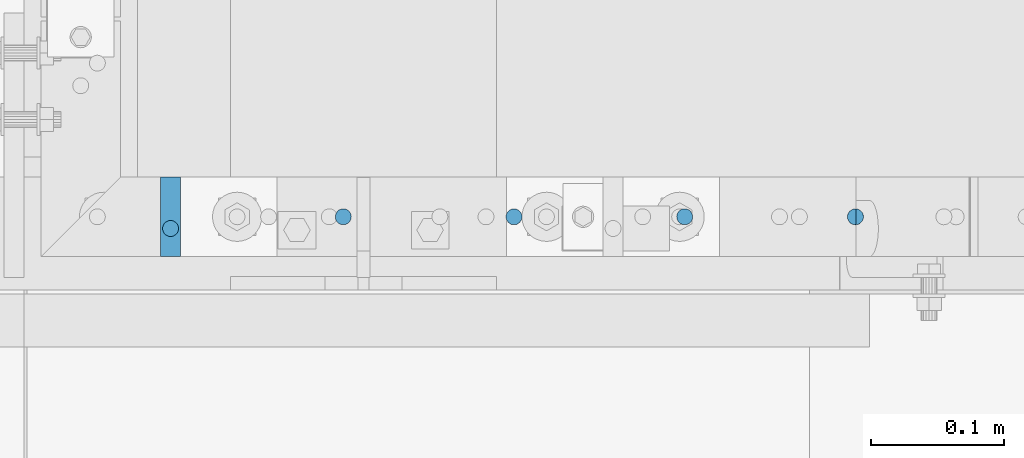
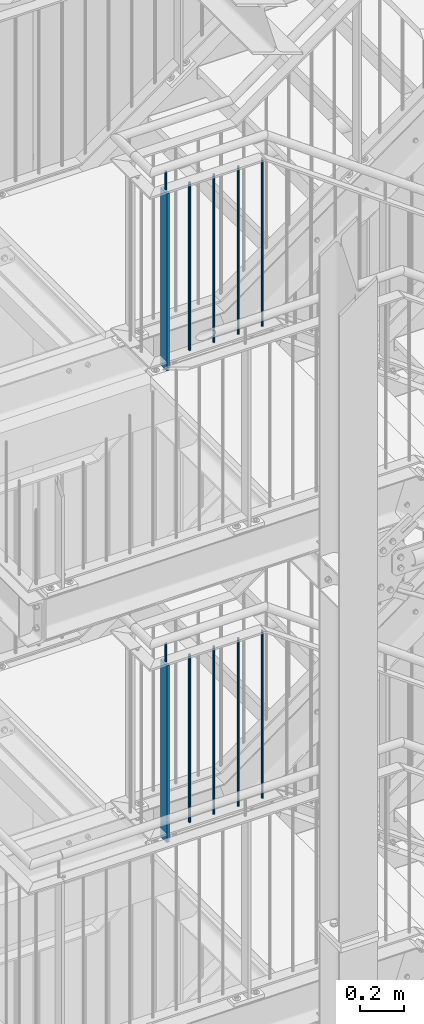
# One storey, part 30 of 825: 12 columns, 2 openings.
"""IFC2X3 building model written with IfcOpenShell, lengths in millimetres."""

from ifc_helpers import new_model, entity, si_unit, converted_unit, frame, origin, origin_with_axes, origin_2d, place, context, project, spatial, polyline, rectangle, circle, outline, extrude, clip, halfspace, material, element, save


model = new_model("IFC2X3")

# Units and contexts
model_context = context("Model", 3, precision=1e-09, world=origin_with_axes())
ifc_project = project(units=[si_unit("LENGTHUNIT", "METRE", prefix="MILLI"), si_unit("AREAUNIT", "SQUARE_METRE"), si_unit("VOLUMEUNIT", "CUBIC_METRE"), converted_unit("PLANEANGLEUNIT", "DEGREE", entity("IfcPlaneAngleMeasure", 0.01745329), si_unit("PLANEANGLEUNIT", "RADIAN"), dimensions=[0, 0, 0, 0, 0, 0, 0])], contexts=[model_context])

# Site, building, storey
site_placement = place(None, origin_with_axes())
site = spatial("IfcSite", under=ifc_project, at=site_placement, Name="Cnopf'sche Kinderklinik", CompositionType="ELEMENT")
building_placement = place(site_placement, origin_with_axes())
building = spatial("IfcBuilding", under=site, at=building_placement, Name="Struktur 1", CompositionType="ELEMENT")
storey_placement = place(building_placement, origin_with_axes())
storey = spatial("IfcBuildingStorey", under=building, at=storey_placement, Name="Default Storey", CompositionType="ELEMENT", Elevation=0.0)

# Column
ifc_material = material(Name="S235JR")
column_1_placement = place(None, frame((4711.713402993, 5791.736971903, 13618.723292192), z_axis=(0.0, 0.0, 1.0), x_axis=(-1.0, 0.0, 0.0)))
element("IfcColumn", 1, at=column_1_placement, inside=storey, material=ifc_material, Name="Railing_Post_Landing#2", ObjectType="Railing_Post_Landing#2", context=model_context, shape_type="Clipping", body=[
    clip(clip(extrude(rectangle(XDim=15.0, YDim=60.0, at=origin_2d()), origin(), (0.0, 0.0, -1.0), 1070.646584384), halfspace(frame((4711.713402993, 5791.736971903, -1019.722292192), z_axis=(0.0, 0.0, 1.0), x_axis=(-1.0, 0.0, 0.0)), True)), halfspace(frame((4711.713402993, 5791.736971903, -30.924292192), z_axis=(0.0, 0.0, -1.0), x_axis=(1.0, 0.0, 0.0)), True)),
])

# Column, opening
column_2_placement = place(None, frame((5226.32504585, 5791.736971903, 13587.8), z_axis=(0.0, 0.0, 1.0), x_axis=(-1.0, 0.0, 0.0)))
column_2 = element("IfcColumn", 2, at=column_2_placement, inside=storey, material=ifc_material, Name="Railing_Picket_Landing#12", ObjectType="Railing_Picket_Landing#12", context=model_context, shape_type="SweptSolid", body=[
    extrude(circle(Radius=6.0, at=origin_2d()), origin(), (0.0, 0.0, -1.0), 938.8),
])
opening_1_placement = place(column_2_placement, frame((0.0, -106.1, 0.0), z_axis=(0.0, 1.0, 0.0), x_axis=(-1.0, 0.0, 0.0)))
element("IfcOpeningElement", 3, at=opening_1_placement, cuts=column_2, ObjectType="Opening", context=model_context, shape_type="SweptSolid", body=[
    extrude(outline(polyline([(31.901552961, 44.694350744), (0.304586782, 44.694350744), (0.304586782, -0.000511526), (18.301228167, -12.98874694), (31.901552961, 44.694350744)])), origin(), (0.0, 0.0, 1.0), 212.2),
])

# Columns
column_3_placement = place(None, frame((5098.047831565, 5791.736971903, 13601.285281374), z_axis=(0.0, 0.0, 1.0), x_axis=(-1.0, 0.0, 0.0)))
element("IfcColumn", 4, at=column_3_placement, inside=storey, material=ifc_material, Name="Railing_Picket_Landing#13", ObjectType="Railing_Picket_Landing#13", context=model_context, shape_type="Clipping", body=[
    clip(clip(extrude(circle(Radius=6.0, at=origin_2d()), origin(), (0.0, 0.0, -1.0), 965.770562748), halfspace(frame((5098.047831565, 5791.736971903, -13.486281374), z_axis=(0.0, 0.0, -1.0), x_axis=(1.0, 0.0, 0.0)), True)), halfspace(frame((5098.047831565, 5791.736971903, -952.284281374), z_axis=(0.0, 0.0, 1.0), x_axis=(-1.0, 0.0, 0.0)), True)),
])
column_4_placement = place(None, frame((4969.770617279, 5791.736971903, 13601.285281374), z_axis=(0.0, 0.0, 1.0), x_axis=(-1.0, 0.0, 0.0)))
element("IfcColumn", 5, at=column_4_placement, inside=storey, material=ifc_material, Name="Railing_Picket_Landing#14", ObjectType="Railing_Picket_Landing#14", context=model_context, shape_type="Clipping", body=[
    clip(clip(extrude(circle(Radius=6.0, at=origin_2d()), origin(), (0.0, 0.0, -1.0), 965.770562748), halfspace(frame((4969.770617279, 5791.736971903, -13.486281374), z_axis=(0.0, 0.0, -1.0), x_axis=(1.0, 0.0, 0.0)), True)), halfspace(frame((4969.770617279, 5791.736971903, -952.284281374), z_axis=(0.0, 0.0, 1.0), x_axis=(-1.0, 0.0, 0.0)), True)),
])
column_5_placement = place(None, frame((4841.493402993, 5791.736971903, 13601.285281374), z_axis=(0.0, 0.0, 1.0), x_axis=(-1.0, 0.0, 0.0)))
element("IfcColumn", 6, at=column_5_placement, inside=storey, material=ifc_material, Name="Railing_Picket_Landing#15", ObjectType="Railing_Picket_Landing#15", context=model_context, shape_type="Clipping", body=[
    clip(clip(extrude(circle(Radius=6.0, at=origin_2d()), origin(), (0.0, 0.0, -1.0), 965.770562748), halfspace(frame((4841.493402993, 5791.736971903, -13.486281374), z_axis=(0.0, 0.0, -1.0), x_axis=(1.0, 0.0, 0.0)), True)), halfspace(frame((4841.493402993, 5791.736971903, -952.284281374), z_axis=(0.0, 0.0, 1.0), x_axis=(-1.0, 0.0, 0.0)), True)),
])
column_6_placement = place(None, frame((4711.713402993, 5782.936971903, 13706.285281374), z_axis=(0.0, 0.0, 1.0), x_axis=(0.0, 1.0, 0.0)))
element("IfcColumn", 7, at=column_6_placement, inside=storey, material=ifc_material, Name="Bar#2", ObjectType="Bar#2", context=model_context, shape_type="Clipping", body=[
    clip(clip(extrude(circle(Radius=6.0, at=origin_2d()), origin(), (0.0, 0.0, -1.0), 116.970562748), halfspace(frame((-5782.936971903, 4711.713402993, -8.486281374), z_axis=(0.0, 0.0, -1.0), x_axis=(0.0, 1.0, 0.0)), True)), halfspace(frame((-5782.936971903, 4711.713402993, -108.484281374), z_axis=(0.0, 0.0, 1.0), x_axis=(0.0, -1.0, 0.0)), True)),
])
column_7_placement = place(None, frame((4711.713402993, 5791.736971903, 16253.723292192), z_axis=(0.0, 0.0, 1.0), x_axis=(-1.0, 0.0, 0.0)))
element("IfcColumn", 8, at=column_7_placement, inside=storey, material=ifc_material, Name="Railing_Post_Landing#2", ObjectType="Railing_Post_Landing#2", context=model_context, shape_type="Clipping", body=[
    clip(clip(extrude(rectangle(XDim=15.0, YDim=60.0, at=origin_2d()), origin(), (0.0, 0.0, -1.0), 1070.646584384), halfspace(frame((4711.713402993, 5791.736971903, -1019.722292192), z_axis=(0.0, 0.0, 1.0), x_axis=(-1.0, 0.0, 0.0)), True)), halfspace(frame((4711.713402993, 5791.736971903, -30.924292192), z_axis=(0.0, 0.0, -1.0), x_axis=(1.0, 0.0, 0.0)), True)),
])

# Column, opening
column_8_placement = place(None, frame((5226.32504585, 5791.736971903, 16222.8), z_axis=(0.0, 0.0, 1.0), x_axis=(-1.0, 0.0, 0.0)))
column_8 = element("IfcColumn", 9, at=column_8_placement, inside=storey, material=ifc_material, Name="Railing_Picket_Landing#12", ObjectType="Railing_Picket_Landing#12", context=model_context, shape_type="SweptSolid", body=[
    extrude(circle(Radius=6.0, at=origin_2d()), origin(), (0.0, 0.0, -1.0), 938.8),
])
opening_2_placement = place(column_8_placement, frame((0.0, -106.1, 0.0), z_axis=(0.0, 1.0, 0.0), x_axis=(-1.0, 0.0, 0.0)))
element("IfcOpeningElement", 10, at=opening_2_placement, cuts=column_8, ObjectType="Opening", context=model_context, shape_type="SweptSolid", body=[
    extrude(outline(polyline([(33.590442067, 31.144766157), (0.279708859, 31.144766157), (0.279708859, -0.000510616), (17.54522259, -12.499034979), (33.590442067, 31.144766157)])), origin(), (0.0, 0.0, 1.0), 212.2),
])

# Columns
column_9_placement = place(None, frame((5098.047831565, 5791.736971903, 16236.285281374), z_axis=(0.0, 0.0, 1.0), x_axis=(-1.0, 0.0, 0.0)))
element("IfcColumn", 11, at=column_9_placement, inside=storey, material=ifc_material, Name="Railing_Picket_Landing#13", ObjectType="Railing_Picket_Landing#13", context=model_context, shape_type="Clipping", body=[
    clip(clip(extrude(circle(Radius=6.0, at=origin_2d()), origin(), (0.0, 0.0, -1.0), 965.770562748), halfspace(frame((5098.047831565, 5791.736971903, -13.486281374), z_axis=(0.0, 0.0, -1.0), x_axis=(1.0, 0.0, 0.0)), True)), halfspace(frame((5098.047831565, 5791.736971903, -952.284281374), z_axis=(0.0, 0.0, 1.0), x_axis=(-1.0, 0.0, 0.0)), True)),
])
column_10_placement = place(None, frame((4969.770617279, 5791.736971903, 16236.285281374), z_axis=(0.0, 0.0, 1.0), x_axis=(-1.0, 0.0, 0.0)))
element("IfcColumn", 12, at=column_10_placement, inside=storey, material=ifc_material, Name="Railing_Picket_Landing#14", ObjectType="Railing_Picket_Landing#14", context=model_context, shape_type="Clipping", body=[
    clip(clip(extrude(circle(Radius=6.0, at=origin_2d()), origin(), (0.0, 0.0, -1.0), 965.770562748), halfspace(frame((4969.770617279, 5791.736971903, -13.486281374), z_axis=(0.0, 0.0, -1.0), x_axis=(1.0, 0.0, 0.0)), True)), halfspace(frame((4969.770617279, 5791.736971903, -952.284281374), z_axis=(0.0, 0.0, 1.0), x_axis=(-1.0, 0.0, 0.0)), True)),
])
column_11_placement = place(None, frame((4841.493402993, 5791.736971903, 16236.285281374), z_axis=(0.0, 0.0, 1.0), x_axis=(-1.0, 0.0, 0.0)))
element("IfcColumn", 13, at=column_11_placement, inside=storey, material=ifc_material, Name="Railing_Picket_Landing#15", ObjectType="Railing_Picket_Landing#15", context=model_context, shape_type="Clipping", body=[
    clip(clip(extrude(circle(Radius=6.0, at=origin_2d()), origin(), (0.0, 0.0, -1.0), 965.770562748), halfspace(frame((4841.493402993, 5791.736971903, -13.486281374), z_axis=(0.0, 0.0, -1.0), x_axis=(1.0, 0.0, 0.0)), True)), halfspace(frame((4841.493402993, 5791.736971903, -952.284281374), z_axis=(0.0, 0.0, 1.0), x_axis=(-1.0, 0.0, 0.0)), True)),
])
column_12_placement = place(None, frame((4711.713402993, 5782.936971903, 16341.285281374), z_axis=(0.0, 0.0, 1.0), x_axis=(0.0, 1.0, 0.0)))
element("IfcColumn", 14, at=column_12_placement, inside=storey, material=ifc_material, Name="Bar#2", ObjectType="Bar#2", context=model_context, shape_type="Clipping", body=[
    clip(clip(extrude(circle(Radius=6.0, at=origin_2d()), origin(), (0.0, 0.0, -1.0), 116.970562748), halfspace(frame((-5782.936971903, 4711.713402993, -8.486281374), z_axis=(0.0, 0.0, -1.0), x_axis=(0.0, 1.0, 0.0)), True)), halfspace(frame((-5782.936971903, 4711.713402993, -108.484281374), z_axis=(0.0, 0.0, 1.0), x_axis=(0.0, -1.0, 0.0)), True)),
])

save(model, "model.ifc")
